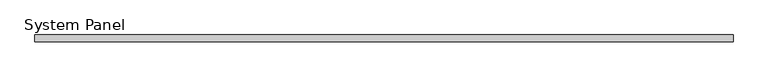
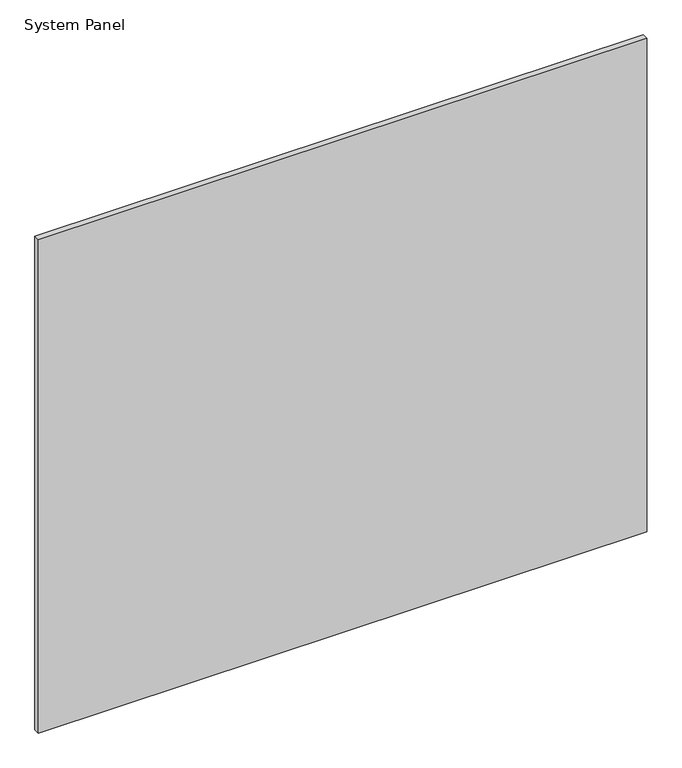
"""IFC4 building model written with IfcOpenShell, lengths in millimetres: plate geometry, System Panel : стекло_смещение_0."""

from ifc_helpers import new_model, si_unit, origin, origin_with_axes, place, context, project, spatial, polyline, outline, extrude, source, transform, mapped, element, save


def system_panel_b4577e30(model_context):
    return source(origin(), model_context, "Body", "SweptSolid", [
        extrude(outline(polyline([(525.0, -5.0), (-525.0, -5.0), (-525.0, 5.0), (525.0, 5.0), (525.0, -5.0)])), origin_with_axes(), (0.0, 0.0, 1.0), 900.0),
    ])


if __name__ == "__main__":
    model = new_model("IFC4")
    model_context = context("Model", 3, world=origin())
    ifc_project = project(units=[si_unit("LENGTHUNIT", "METRE", prefix="MILLI")], contexts=[model_context])
    site = spatial("IfcSite", under=ifc_project)
    building = spatial("IfcBuilding", under=site)
    placement = place(None, origin())
    system_panel_shape = system_panel_b4577e30(model_context)
    element("IfcPlate", 1, ObjectType="System Panel : стекло_смещение_0", at=placement, inside=building, context=model_context, shape_type="MappedRepresentation", body=[
        mapped(system_panel_shape, transform((0.0, 0.0, 0.0), x_axis=(1.0, 0.0, 0.0), y_axis=(0.0, 1.0, 0.0), z_axis=(0.0, 0.0, 1.0))),
    ])
    save(model, "model.ifc")
